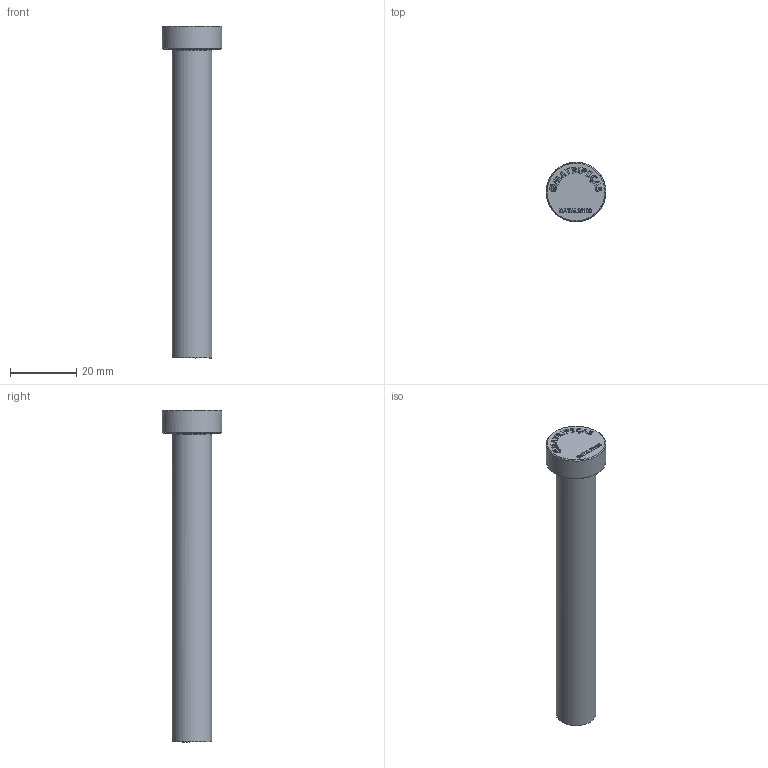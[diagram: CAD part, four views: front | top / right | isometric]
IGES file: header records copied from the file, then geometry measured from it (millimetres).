
Start section: C
Global section: file name: DATAL12100.igs; native system: By Siemens PLM Incorporated; preprocessor: XPlus GENERIC/IGES 18.0.17; author: Author; organization: Title; date: 20240719.105430; units: millimetre
Bounding box: 17.99 x 17.99 x 100 mm (x, y, z)
Volume: 12215.9 mm3; surface area: 4423.6 mm2
Topology: 1 solids, 1 shells, 338 faces, 880 edges, 578 vertices
Faces by surface type: bspline 338
